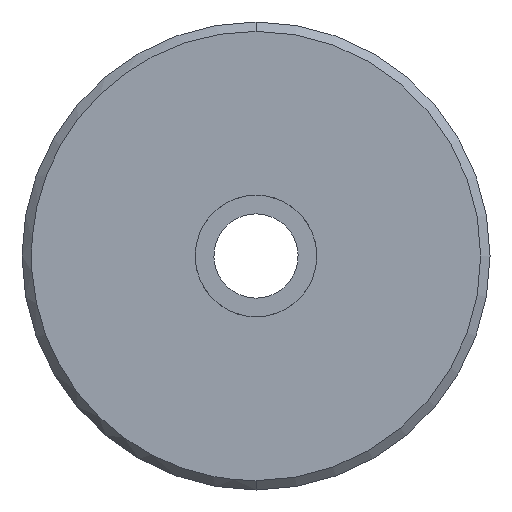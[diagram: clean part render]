
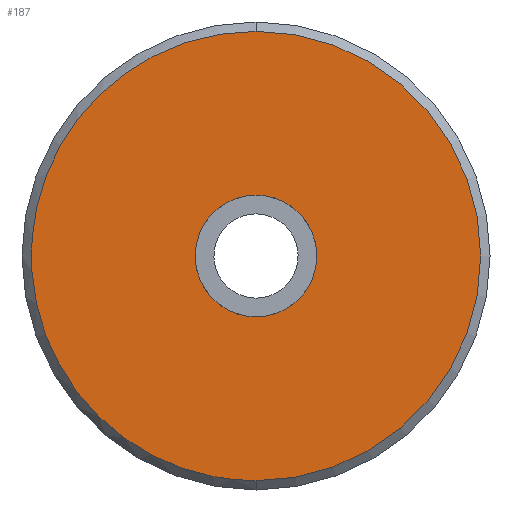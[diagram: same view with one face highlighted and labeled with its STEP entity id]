
A CAD part, front view. The second image highlights one B-rep face of the part: STEP entity #187.
In plain terms, the highlighted planar face has unit normal (0, -1, 0).
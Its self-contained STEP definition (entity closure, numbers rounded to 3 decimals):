
#57=CARTESIAN_POINT('Axis2P3D Location',(0.,0.,0.)) ;
#61=CARTESIAN_POINT('Vertex',(0.,0.,-48.)) ;
#63=CARTESIAN_POINT('Vertex',(0.,0.,48.)) ;
#92=CARTESIAN_POINT('Axis2P3D Location',(0.,0.,0.)) ;
#98=CARTESIAN_POINT('Control Point',(0.,0.,48.)) ;
#99=CARTESIAN_POINT('Control Point',(-4.412,0.,48.)) ;
#100=CARTESIAN_POINT('Control Point',(-8.825,0.,47.493)) ;
#101=CARTESIAN_POINT('Control Point',(-13.159,0.,46.479)) ;
#102=CARTESIAN_POINT('Control Point',(-21.518,0.,43.473)) ;
#103=CARTESIAN_POINT('Control Point',(-28.977,0.,38.65)) ;
#104=CARTESIAN_POINT('Control Point',(-32.412,0.,35.818)) ;
#105=CARTESIAN_POINT('Control Point',(-38.57,0.,29.416)) ;
#106=CARTESIAN_POINT('Control Point',(-43.115,0.,21.784)) ;
#107=CARTESIAN_POINT('Control Point',(-44.937,0.,17.722)) ;
#108=CARTESIAN_POINT('Control Point',(-47.616,0.,9.253)) ;
#109=CARTESIAN_POINT('Control Point',(-48.304,0.,0.397)) ;
#110=CARTESIAN_POINT('Control Point',(-48.136,0.,-4.051)) ;
#111=CARTESIAN_POINT('Control Point',(-46.78,0.,-12.83)) ;
#112=CARTESIAN_POINT('Control Point',(-43.468,0.,-21.072)) ;
#113=CARTESIAN_POINT('Control Point',(-41.343,0.,-24.984)) ;
#114=CARTESIAN_POINT('Control Point',(-36.233,0.,-32.25)) ;
#115=CARTESIAN_POINT('Control Point',(-29.609,0.,-38.168)) ;
#116=CARTESIAN_POINT('Control Point',(-25.969,0.,-40.731)) ;
#117=CARTESIAN_POINT('Control Point',(-18.81,0.,-44.627)) ;
#118=CARTESIAN_POINT('Control Point',(-11.01,0.,-46.939)) ;
#119=CARTESIAN_POINT('Control Point',(-7.37,0.,-47.646)) ;
#120=CARTESIAN_POINT('Control Point',(-3.685,0.,-48.)) ;
#121=CARTESIAN_POINT('Control Point',(0.,0.,-48.)) ;
#128=CARTESIAN_POINT('Control Point',(0.,0.,-13.)) ;
#129=CARTESIAN_POINT('Control Point',(1.236,0.,-13.)) ;
#130=CARTESIAN_POINT('Control Point',(2.473,0.,-12.853)) ;
#131=CARTESIAN_POINT('Control Point',(3.686,0.,-12.559)) ;
#132=CARTESIAN_POINT('Control Point',(6.019,0.,-11.688)) ;
#133=CARTESIAN_POINT('Control Point',(8.083,0.,-10.295)) ;
#134=CARTESIAN_POINT('Control Point',(9.027,0.,-9.478)) ;
#135=CARTESIAN_POINT('Control Point',(10.702,0.,-7.635)) ;
#136=CARTESIAN_POINT('Control Point',(11.899,0.,-5.452)) ;
#137=CARTESIAN_POINT('Control Point',(12.365,0.,-4.293)) ;
#138=CARTESIAN_POINT('Control Point',(13.011,0.,-1.888)) ;
#139=CARTESIAN_POINT('Control Point',(13.075,0.,0.601)) ;
#140=CARTESIAN_POINT('Control Point',(12.958,0.,1.844)) ;
#141=CARTESIAN_POINT('Control Point',(12.432,0.,4.278)) ;
#142=CARTESIAN_POINT('Control Point',(11.349,0.,6.521)) ;
#143=CARTESIAN_POINT('Control Point',(10.676,0.,7.572)) ;
#144=CARTESIAN_POINT('Control Point',(9.093,0.,9.495)) ;
#145=CARTESIAN_POINT('Control Point',(7.104,0.,10.993)) ;
#146=CARTESIAN_POINT('Control Point',(6.025,0.,11.62)) ;
#147=CARTESIAN_POINT('Control Point',(4.188,0.,12.411)) ;
#148=CARTESIAN_POINT('Control Point',(2.243,0.,12.838)) ;
#149=CARTESIAN_POINT('Control Point',(1.499,0.,12.946)) ;
#150=CARTESIAN_POINT('Control Point',(0.749,0.,13.)) ;
#151=CARTESIAN_POINT('Control Point',(0.,0.,13.)) ;
#152=CARTESIAN_POINT('Vertex',(0.,0.,-13.)) ;
#154=CARTESIAN_POINT('Vertex',(0.,0.,13.)) ;
#158=CARTESIAN_POINT('Control Point',(0.,0.,13.)) ;
#159=CARTESIAN_POINT('Control Point',(-1.236,0.,13.)) ;
#160=CARTESIAN_POINT('Control Point',(-2.473,0.,12.853)) ;
#161=CARTESIAN_POINT('Control Point',(-3.686,0.,12.559)) ;
#162=CARTESIAN_POINT('Control Point',(-6.019,0.,11.688)) ;
#163=CARTESIAN_POINT('Control Point',(-8.083,0.,10.295)) ;
#164=CARTESIAN_POINT('Control Point',(-9.027,0.,9.478)) ;
#165=CARTESIAN_POINT('Control Point',(-10.702,0.,7.635)) ;
#166=CARTESIAN_POINT('Control Point',(-11.899,0.,5.452)) ;
#167=CARTESIAN_POINT('Control Point',(-12.365,0.,4.293)) ;
#168=CARTESIAN_POINT('Control Point',(-13.011,0.,1.888)) ;
#169=CARTESIAN_POINT('Control Point',(-13.075,0.,-0.601)) ;
#170=CARTESIAN_POINT('Control Point',(-12.958,0.,-1.844)) ;
#171=CARTESIAN_POINT('Control Point',(-12.432,0.,-4.278)) ;
#172=CARTESIAN_POINT('Control Point',(-11.349,0.,-6.521)) ;
#173=CARTESIAN_POINT('Control Point',(-10.676,0.,-7.572)) ;
#174=CARTESIAN_POINT('Control Point',(-9.093,0.,-9.495)) ;
#175=CARTESIAN_POINT('Control Point',(-7.104,0.,-10.993)) ;
#176=CARTESIAN_POINT('Control Point',(-6.025,0.,-11.62)) ;
#177=CARTESIAN_POINT('Control Point',(-4.188,0.,-12.411)) ;
#178=CARTESIAN_POINT('Control Point',(-2.243,0.,-12.838)) ;
#179=CARTESIAN_POINT('Control Point',(-1.499,0.,-12.946)) ;
#180=CARTESIAN_POINT('Control Point',(-0.749,0.,-13.)) ;
#181=CARTESIAN_POINT('Control Point',(0.,0.,-13.)) ;
#58=DIRECTION('Axis2P3D Direction',(-0.,1.,0.)) ;
#93=DIRECTION('Axis2P3D Direction',(0.,1.,0.)) ;
#94=DIRECTION('Axis2P3D XDirection',(0.,-0.,1.)) ;
#59=AXIS2_PLACEMENT_3D('Circle Axis2P3D',#57,#58,$) ;
#95=AXIS2_PLACEMENT_3D('Plane Axis2P3D',#92,#93,#94) ;
#124=ORIENTED_EDGE('',*,*,#122,.T.) ;
#125=ORIENTED_EDGE('',*,*,#65,.T.) ;
#184=ORIENTED_EDGE('',*,*,#156,.F.) ;
#185=ORIENTED_EDGE('',*,*,#182,.F.) ;
#186=FACE_BOUND('',#183,.T.) ;
#187=ADVANCED_FACE('Smusso 2x45\X2\00B0\X0\',(#126,#186),#96,.F.) ;
#97=B_SPLINE_CURVE_WITH_KNOTS('',5,(#98,#99,#100,#101,#102,#103,#104,#105,#106,#107,#108,#109,#110,#111,#112,#113,#114,#115,#116,#117,#118,#119,#120,#121),.UNSPECIFIED.,.F.,.U.,(6,3,3,3,3,3,3,6),(0.,31.2,62.399,93.599,124.799,155.999,187.198,213.257),.UNSPECIFIED.) ;
#127=B_SPLINE_CURVE_WITH_KNOTS('',5,(#128,#129,#130,#131,#132,#133,#134,#135,#136,#137,#138,#139,#140,#141,#142,#143,#144,#145,#146,#147,#148,#149,#150,#151),.UNSPECIFIED.,.F.,.U.,(6,3,3,3,3,3,3,6),(0.,8.743,17.486,26.229,34.972,43.715,52.457,57.757),.UNSPECIFIED.) ;
#157=B_SPLINE_CURVE_WITH_KNOTS('',5,(#158,#159,#160,#161,#162,#163,#164,#165,#166,#167,#168,#169,#170,#171,#172,#173,#174,#175,#176,#177,#178,#179,#180,#181),.UNSPECIFIED.,.F.,.U.,(6,3,3,3,3,3,3,6),(0.,8.743,17.486,26.229,34.972,43.715,52.457,57.757),.UNSPECIFIED.) ;
#60=CIRCLE('generated circle',#59,48.) ;
#65=EDGE_CURVE('',#62,#64,#60,.F.) ;
#122=EDGE_CURVE('',#64,#62,#97,.T.) ;
#156=EDGE_CURVE('',#153,#155,#127,.T.) ;
#182=EDGE_CURVE('',#155,#153,#157,.T.) ;
#123=EDGE_LOOP('',(#124,#125)) ;
#183=EDGE_LOOP('',(#184,#185)) ;
#126=FACE_OUTER_BOUND('',#123,.T.) ;
#96=PLANE('Plane',#95) ;
#62=VERTEX_POINT('',#61) ;
#64=VERTEX_POINT('',#63) ;
#153=VERTEX_POINT('',#152) ;
#155=VERTEX_POINT('',#154) ;
